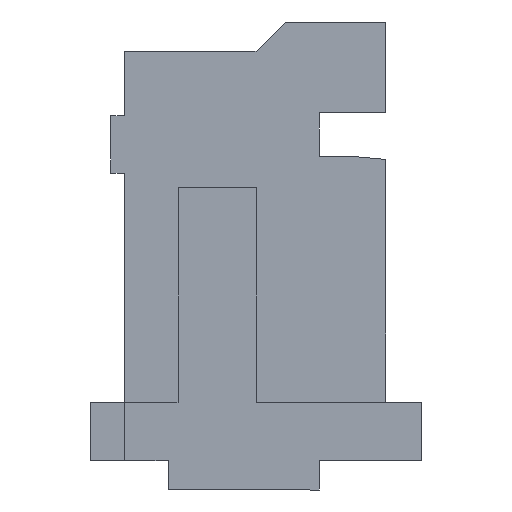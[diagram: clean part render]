
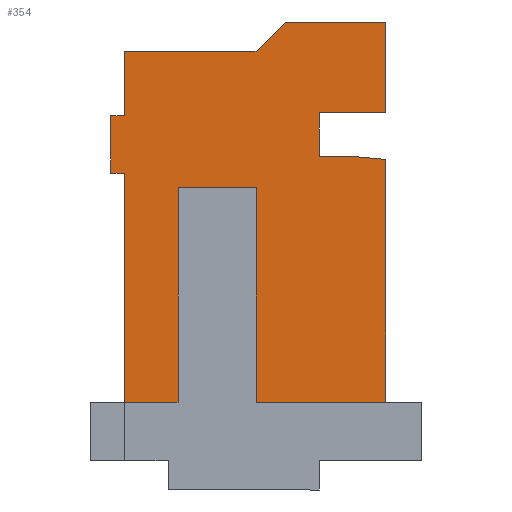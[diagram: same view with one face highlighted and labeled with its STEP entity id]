
A CAD part, left-side view. The second image highlights one B-rep face of the part: STEP entity #354.
In plain terms, the highlighted planar face has unit normal (-1, 0, 0).
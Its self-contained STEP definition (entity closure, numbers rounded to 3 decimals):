
#9 = VERTEX_POINT ( 'NONE', #657 ) ;
#98 = VERTEX_POINT ( 'NONE', #845 ) ;
#100 = EDGE_CURVE ( 'NONE', #101, #98, #834, .T. ) ;
#101 = VERTEX_POINT ( 'NONE', #830 ) ;
#199 = VERTEX_POINT ( 'NONE', #4166 ) ;
#213 = VERTEX_POINT ( 'NONE', #4280 ) ;
#232 = EDGE_CURVE ( 'NONE', #199, #213, #4262, .T. ) ;
#236 = EDGE_CURVE ( 'NONE', #285, #293, #4237, .T. ) ;
#238 = VERTEX_POINT ( 'NONE', #4213 ) ;
#255 = VERTEX_POINT ( 'NONE', #1068 ) ;
#257 = EDGE_CURVE ( 'NONE', #278, #255, #1061, .T. ) ;
#259 = ORIENTED_EDGE ( 'NONE', *, *, #232, .T. ) ;
#261 = EDGE_CURVE ( 'NONE', #327, #371, #1081, .T. ) ;
#265 = VERTEX_POINT ( 'NONE', #1123 ) ;
#278 = VERTEX_POINT ( 'NONE', #1108 ) ;
#280 = EDGE_CURVE ( 'NONE', #238, #278, #1114, .T. ) ;
#285 = VERTEX_POINT ( 'NONE', #1178 ) ;
#287 = EDGE_CURVE ( 'NONE', #255, #285, #1152, .T. ) ;
#290 = VERTEX_POINT ( 'NONE', #1223 ) ;
#292 = EDGE_CURVE ( 'NONE', #293, #290, #1196, .T. ) ;
#293 = VERTEX_POINT ( 'NONE', #1245 ) ;
#295 = VERTEX_POINT ( 'NONE', #1244 ) ;
#296 = ORIENTED_EDGE ( 'NONE', *, *, #300, .T. ) ;
#299 = EDGE_CURVE ( 'NONE', #321, #295, #1201, .T. ) ;
#300 = EDGE_CURVE ( 'NONE', #295, #199, #1214, .T. ) ;
#302 = ORIENTED_EDGE ( 'NONE', *, *, #287, .T. ) ;
#308 = EDGE_CURVE ( 'NONE', #213, #411, #1210, .T. ) ;
#315 = ORIENTED_EDGE ( 'NONE', *, *, #330, .T. ) ;
#320 = ORIENTED_EDGE ( 'NONE', *, *, #393, .T. ) ;
#321 = VERTEX_POINT ( 'NONE', #1231 ) ;
#322 = VERTEX_POINT ( 'NONE', #1230 ) ;
#323 = ORIENTED_EDGE ( 'NONE', *, *, #324, .T. ) ;
#324 = EDGE_CURVE ( 'NONE', #9, #101, #1229, .T. ) ;
#327 = VERTEX_POINT ( 'NONE', #1259 ) ;
#329 = EDGE_LOOP ( 'NONE', ( #320, #339, #340, #397, #302, #333, #338, #315, #396, #296, #259, #421, #350, #373, #467, #323, #406, #403, #415 ) ) ;
#330 = EDGE_CURVE ( 'NONE', #290, #321, #1301, .T. ) ;
#333 = ORIENTED_EDGE ( 'NONE', *, *, #236, .T. ) ;
#338 = ORIENTED_EDGE ( 'NONE', *, *, #292, .T. ) ;
#339 = ORIENTED_EDGE ( 'NONE', *, *, #408, .T. ) ;
#340 = ORIENTED_EDGE ( 'NONE', *, *, #280, .T. ) ;
#350 = ORIENTED_EDGE ( 'NONE', *, *, #470, .T. ) ;
#354 = ADVANCED_FACE ( 'NONE', ( #1424 ), #1409, .T. ) ;
#358 = VERTEX_POINT ( 'NONE', #1404 ) ;
#371 = VERTEX_POINT ( 'NONE', #1390 ) ;
#373 = ORIENTED_EDGE ( 'NONE', *, *, #374, .T. ) ;
#374 = EDGE_CURVE ( 'NONE', #322, #358, #1388, .T. ) ;
#379 = EDGE_CURVE ( 'NONE', #98, #327, #1294, .T. ) ;
#393 = EDGE_CURVE ( 'NONE', #371, #265, #1342, .T. ) ;
#396 = ORIENTED_EDGE ( 'NONE', *, *, #299, .T. ) ;
#397 = ORIENTED_EDGE ( 'NONE', *, *, #257, .T. ) ;
#403 = ORIENTED_EDGE ( 'NONE', *, *, #379, .T. ) ;
#406 = ORIENTED_EDGE ( 'NONE', *, *, #100, .T. ) ;
#408 = EDGE_CURVE ( 'NONE', #265, #238, #1305, .T. ) ;
#411 = VERTEX_POINT ( 'NONE', #1502 ) ;
#415 = ORIENTED_EDGE ( 'NONE', *, *, #261, .T. ) ;
#421 = ORIENTED_EDGE ( 'NONE', *, *, #308, .T. ) ;
#467 = ORIENTED_EDGE ( 'NONE', *, *, #488, .T. ) ;
#470 = EDGE_CURVE ( 'NONE', #411, #322, #1571, .T. ) ;
#488 = EDGE_CURVE ( 'NONE', #358, #9, #1708, .T. ) ;
#657 = CARTESIAN_POINT ( 'NONE',  ( -3.95, -0.45, -3.6 ) ) ;
#830 = CARTESIAN_POINT ( 'NONE',  ( -3.95, -1.78, -3.6 ) ) ;
#831 = DIRECTION ( 'NONE',  ( 0., 0., 1. ) ) ;
#832 = VECTOR ( 'NONE', #831, 1000. ) ;
#833 = CARTESIAN_POINT ( 'NONE',  ( -3.95, -1.78, 0.3 ) ) ;
#834 = LINE ( 'NONE', #833, #832 ) ;
#845 = CARTESIAN_POINT ( 'NONE',  ( -3.95, -1.78, -1.109 ) ) ;
#1061 = LINE ( 'NONE', #1078, #1077 ) ;
#1068 = CARTESIAN_POINT ( 'NONE',  ( -3.95, -0.75, 0.3 ) ) ;
#1076 = DIRECTION ( 'NONE',  ( 0., 1., 0. ) ) ;
#1077 = VECTOR ( 'NONE', #1076, 1000. ) ;
#1078 = CARTESIAN_POINT ( 'NONE',  ( -3.95, -1.78, 0.3 ) ) ;
#1080 = CARTESIAN_POINT ( 'NONE',  ( -3.95, 0.9, -1.08 ) ) ;
#1081 = LINE ( 'NONE', #1080, #1089 ) ;
#1088 = DIRECTION ( 'NONE',  ( 0., 1., 0. ) ) ;
#1089 = VECTOR ( 'NONE', #1088, 1000. ) ;
#1108 = CARTESIAN_POINT ( 'NONE',  ( -3.95, -1.78, 0.3 ) ) ;
#1114 = LINE ( 'NONE', #1128, #1127 ) ;
#1123 = CARTESIAN_POINT ( 'NONE',  ( -3.95, -1.1, -0.63 ) ) ;
#1126 = DIRECTION ( 'NONE',  ( 0., 0., 1. ) ) ;
#1127 = VECTOR ( 'NONE', #1126, 1000. ) ;
#1128 = CARTESIAN_POINT ( 'NONE',  ( -3.95, -1.78, 0.3 ) ) ;
#1152 = LINE ( 'NONE', #1163, #1161 ) ;
#1160 = DIRECTION ( 'NONE',  ( 0., 0.707, -0.707 ) ) ;
#1161 = VECTOR ( 'NONE', #1160, 1000. ) ;
#1163 = CARTESIAN_POINT ( 'NONE',  ( -3.95, -0.75, 0.3 ) ) ;
#1178 = CARTESIAN_POINT ( 'NONE',  ( -3.95, -0.45, 0. ) ) ;
#1196 = LINE ( 'NONE', #1252, #1197 ) ;
#1197 = VECTOR ( 'NONE', #1246, 1000. ) ;
#1198 = DIRECTION ( 'NONE',  ( 0., 0., -1. ) ) ;
#1199 = VECTOR ( 'NONE', #1198, 1000. ) ;
#1200 = CARTESIAN_POINT ( 'NONE',  ( -3.95, 1.04, -0.66 ) ) ;
#1201 = LINE ( 'NONE', #1200, #1199 ) ;
#1207 = DIRECTION ( 'NONE',  ( 0., -1., 0. ) ) ;
#1208 = VECTOR ( 'NONE', #1207, 1000. ) ;
#1209 = CARTESIAN_POINT ( 'NONE',  ( -3.95, 0.9, -3.6 ) ) ;
#1210 = LINE ( 'NONE', #1209, #1208 ) ;
#1211 = DIRECTION ( 'NONE',  ( 0., -1., 0. ) ) ;
#1212 = VECTOR ( 'NONE', #1211, 1000. ) ;
#1213 = CARTESIAN_POINT ( 'NONE',  ( -3.95, 0.9, -1.25 ) ) ;
#1214 = LINE ( 'NONE', #1213, #1212 ) ;
#1223 = CARTESIAN_POINT ( 'NONE',  ( -3.95, 0.9, -0.66 ) ) ;
#1226 = DIRECTION ( 'NONE',  ( 0., -1., 0. ) ) ;
#1227 = VECTOR ( 'NONE', #1226, 1000. ) ;
#1228 = CARTESIAN_POINT ( 'NONE',  ( -3.95, -1.78, -3.6 ) ) ;
#1229 = LINE ( 'NONE', #1228, #1227 ) ;
#1230 = CARTESIAN_POINT ( 'NONE',  ( -3.95, 0.35, -1.4 ) ) ;
#1231 = CARTESIAN_POINT ( 'NONE',  ( -3.95, 1.04, -0.66 ) ) ;
#1244 = CARTESIAN_POINT ( 'NONE',  ( -3.95, 1.04, -1.25 ) ) ;
#1245 = CARTESIAN_POINT ( 'NONE',  ( -3.95, 0.9, 0. ) ) ;
#1246 = DIRECTION ( 'NONE',  ( 0., 0., -1. ) ) ;
#1252 = CARTESIAN_POINT ( 'NONE',  ( -3.95, 0.9, 0. ) ) ;
#1259 = CARTESIAN_POINT ( 'NONE',  ( -3.95, -1.45, -1.08 ) ) ;
#1291 = DIRECTION ( 'NONE',  ( 0., 0.996, 0.087 ) ) ;
#1292 = VECTOR ( 'NONE', #1291, 1000. ) ;
#1293 = CARTESIAN_POINT ( 'NONE',  ( -3.95, 0.663, -0.895 ) ) ;
#1294 = LINE ( 'NONE', #1293, #1292 ) ;
#1295 = DIRECTION ( 'NONE',  ( 0., -1., 0. ) ) ;
#1296 = VECTOR ( 'NONE', #1295, 1000. ) ;
#1297 = CARTESIAN_POINT ( 'NONE',  ( -3.95, -0.45, -1.4 ) ) ;
#1298 = DIRECTION ( 'NONE',  ( 0., 1., 0. ) ) ;
#1299 = VECTOR ( 'NONE', #1298, 1000. ) ;
#1300 = CARTESIAN_POINT ( 'NONE',  ( -3.95, 0.9, -0.66 ) ) ;
#1301 = LINE ( 'NONE', #1300, #1299 ) ;
#1302 = DIRECTION ( 'NONE',  ( 0., -1., 0. ) ) ;
#1303 = VECTOR ( 'NONE', #1302, 1000. ) ;
#1304 = CARTESIAN_POINT ( 'NONE',  ( -3.95, 0.9, -0.63 ) ) ;
#1305 = LINE ( 'NONE', #1304, #1303 ) ;
#1339 = DIRECTION ( 'NONE',  ( 0., 0., 1. ) ) ;
#1340 = VECTOR ( 'NONE', #1339, 1000. ) ;
#1341 = CARTESIAN_POINT ( 'NONE',  ( -3.95, -1.1, -3.6 ) ) ;
#1342 = LINE ( 'NONE', #1341, #1340 ) ;
#1388 = LINE ( 'NONE', #1297, #1296 ) ;
#1390 = CARTESIAN_POINT ( 'NONE',  ( -3.95, -1.1, -1.08 ) ) ;
#1404 = CARTESIAN_POINT ( 'NONE',  ( -3.95, -0.45, -1.4 ) ) ;
#1405 = DIRECTION ( 'NONE',  ( 0., 1., 0. ) ) ;
#1406 = DIRECTION ( 'NONE',  ( -1., 0., 0. ) ) ;
#1407 = CARTESIAN_POINT ( 'NONE',  ( -3.95, 0.9, -3.6 ) ) ;
#1408 = AXIS2_PLACEMENT_3D ( 'NONE', #1407, #1406, #1405 ) ;
#1409 = PLANE ( 'NONE',  #1408 ) ;
#1424 = FACE_OUTER_BOUND ( 'NONE', #329, .T. ) ;
#1502 = CARTESIAN_POINT ( 'NONE',  ( -3.95, 0.35, -3.6 ) ) ;
#1568 = DIRECTION ( 'NONE',  ( 0., 0., 1. ) ) ;
#1569 = VECTOR ( 'NONE', #1568, 1000. ) ;
#1570 = CARTESIAN_POINT ( 'NONE',  ( -3.95, 0.35, -3.6 ) ) ;
#1571 = LINE ( 'NONE', #1570, #1569 ) ;
#1705 = DIRECTION ( 'NONE',  ( 0., 0., -1. ) ) ;
#1706 = VECTOR ( 'NONE', #1705, 1000. ) ;
#1707 = CARTESIAN_POINT ( 'NONE',  ( -3.95, -0.45, -3.6 ) ) ;
#1708 = LINE ( 'NONE', #1707, #1706 ) ;
#4166 = CARTESIAN_POINT ( 'NONE',  ( -3.95, 0.9, -1.25 ) ) ;
#4213 = CARTESIAN_POINT ( 'NONE',  ( -3.95, -1.78, -0.63 ) ) ;
#4234 = DIRECTION ( 'NONE',  ( 0., 1., 0. ) ) ;
#4235 = VECTOR ( 'NONE', #4234, 1000. ) ;
#4236 = CARTESIAN_POINT ( 'NONE',  ( -3.95, -0.45, 0. ) ) ;
#4237 = LINE ( 'NONE', #4236, #4235 ) ;
#4259 = DIRECTION ( 'NONE',  ( 0., 0., -1. ) ) ;
#4260 = VECTOR ( 'NONE', #4259, 1000. ) ;
#4261 = CARTESIAN_POINT ( 'NONE',  ( -3.95, 0.9, 0. ) ) ;
#4262 = LINE ( 'NONE', #4261, #4260 ) ;
#4280 = CARTESIAN_POINT ( 'NONE',  ( -3.95, 0.9, -3.6 ) ) ;
